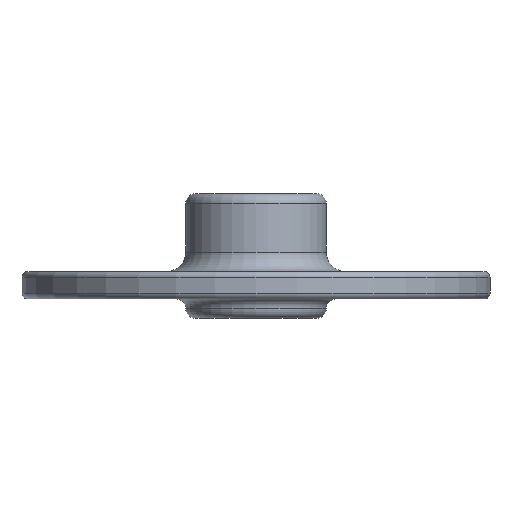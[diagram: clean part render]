
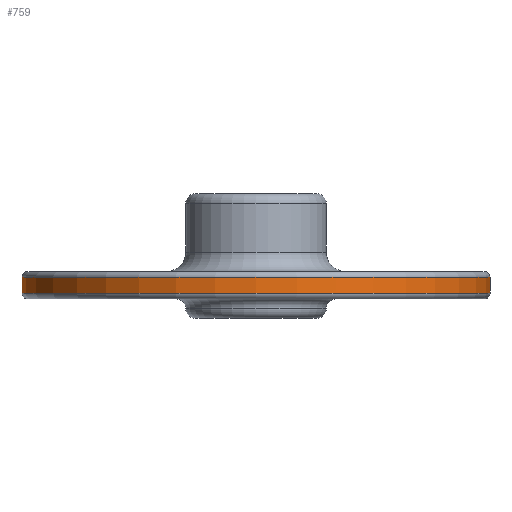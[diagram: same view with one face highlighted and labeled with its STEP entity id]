
A CAD part, front view. The second image highlights one B-rep face of the part: STEP entity #759.
In plain terms, the highlighted cylindrical face has radius 12 mm (diameter 24 mm), a partial arc.
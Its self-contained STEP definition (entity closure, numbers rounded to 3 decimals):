
#85 = DIRECTION ( 'NONE',  ( 0., 0., -1. ) ) ;
#167 = EDGE_CURVE ( 'NONE', #2897, #401, #2636, .T. ) ;
#291 = DIRECTION ( 'NONE',  ( 1., 0., 0. ) ) ;
#317 = FACE_OUTER_BOUND ( 'NONE', #2574, .T. ) ;
#329 = ORIENTED_EDGE ( 'NONE', *, *, #167, .F. ) ;
#365 = VERTEX_POINT ( 'NONE', #503 ) ;
#395 = CARTESIAN_POINT ( 'NONE',  ( -12., 0., 1.4 ) ) ;
#401 = VERTEX_POINT ( 'NONE', #620 ) ;
#447 = ORIENTED_EDGE ( 'NONE', *, *, #1683, .T. ) ;
#499 = CARTESIAN_POINT ( 'NONE',  ( 0., 0., 1.1 ) ) ;
#503 = CARTESIAN_POINT ( 'NONE',  ( -12., 0., 0.3 ) ) ;
#575 = LINE ( 'NONE', #395, #1659 ) ;
#620 = CARTESIAN_POINT ( 'NONE',  ( 12., 0., 0.3 ) ) ;
#704 = EDGE_CURVE ( 'NONE', #2897, #804, #2806, .T. ) ;
#753 = VECTOR ( 'NONE', #85, 1000. ) ;
#759 = ADVANCED_FACE ( 'NONE', ( #317 ), #2392, .T. ) ;
#804 = VERTEX_POINT ( 'NONE', #1518 ) ;
#918 = ORIENTED_EDGE ( 'NONE', *, *, #704, .T. ) ;
#1031 = CARTESIAN_POINT ( 'NONE',  ( 12., 0., 1.4 ) ) ;
#1191 = DIRECTION ( 'NONE',  ( 0., 0., -1. ) ) ;
#1260 = CARTESIAN_POINT ( 'NONE',  ( 0., 0., 1.4 ) ) ;
#1290 = DIRECTION ( 'NONE',  ( 0., 0., -1. ) ) ;
#1329 = DIRECTION ( 'NONE',  ( 1., 0., 0. ) ) ;
#1377 = AXIS2_PLACEMENT_3D ( 'NONE', #499, #1191, #291 ) ;
#1407 = AXIS2_PLACEMENT_3D ( 'NONE', #2158, #1555, #1329 ) ;
#1491 = DIRECTION ( 'NONE',  ( 0., 0., -1. ) ) ;
#1518 = CARTESIAN_POINT ( 'NONE',  ( -12., 0., 1.1 ) ) ;
#1555 = DIRECTION ( 'NONE',  ( 0., 0., 1. ) ) ;
#1659 = VECTOR ( 'NONE', #1491, 1000. ) ;
#1683 = EDGE_CURVE ( 'NONE', #804, #365, #575, .T. ) ;
#1931 = ORIENTED_EDGE ( 'NONE', *, *, #1995, .T. ) ;
#1995 = EDGE_CURVE ( 'NONE', #365, #401, #2505, .T. ) ;
#2158 = CARTESIAN_POINT ( 'NONE',  ( 0., 0., 0.3 ) ) ;
#2188 = AXIS2_PLACEMENT_3D ( 'NONE', #1260, #1290, #2632 ) ;
#2392 = CYLINDRICAL_SURFACE ( 'NONE', #2188, 12. ) ;
#2505 = CIRCLE ( 'NONE', #1407, 12. ) ;
#2574 = EDGE_LOOP ( 'NONE', ( #329, #918, #447, #1931 ) ) ;
#2632 = DIRECTION ( 'NONE',  ( -1., 0., 0. ) ) ;
#2636 = LINE ( 'NONE', #1031, #753 ) ;
#2806 = CIRCLE ( 'NONE', #1377, 12. ) ;
#2854 = CARTESIAN_POINT ( 'NONE',  ( 12., 0., 1.1 ) ) ;
#2897 = VERTEX_POINT ( 'NONE', #2854 ) ;
